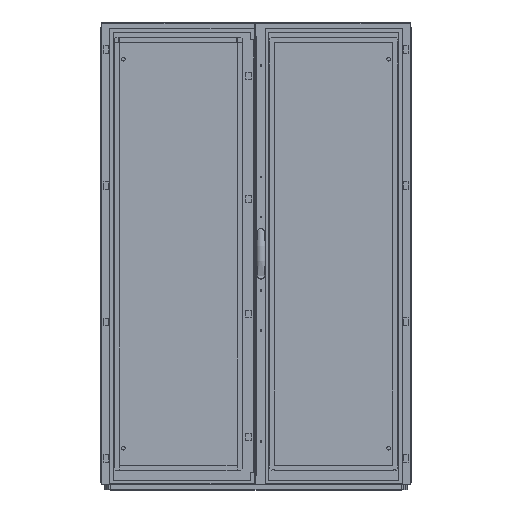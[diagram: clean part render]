
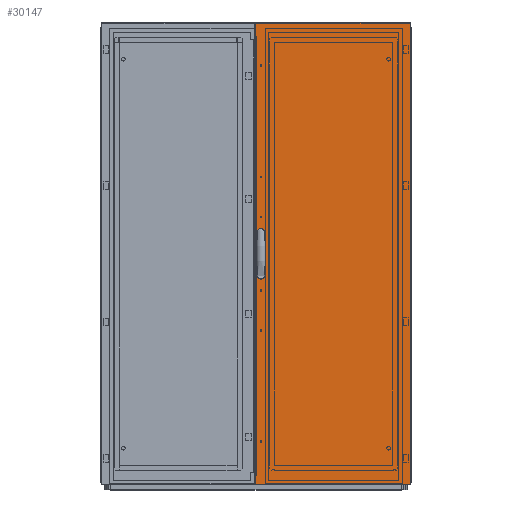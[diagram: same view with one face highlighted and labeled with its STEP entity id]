
A CAD part, top view. The second image highlights one B-rep face of the part: STEP entity #30147.
In plain terms, the highlighted planar face has unit normal (0, 0, 1) as drawn and (0, 0, -1) by its records, which use the part's own axes.
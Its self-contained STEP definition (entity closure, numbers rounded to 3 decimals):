
#359=CIRCLE('',#33836,2.6);
#360=CIRCLE('',#33837,2.6);
#3166=ORIENTED_EDGE('',*,*,#10638,.T.);
#3167=ORIENTED_EDGE('',*,*,#10639,.T.);
#3168=ORIENTED_EDGE('',*,*,#10640,.T.);
#3169=ORIENTED_EDGE('',*,*,#10641,.T.);
#3170=ORIENTED_EDGE('',*,*,#10642,.T.);
#3171=ORIENTED_EDGE('',*,*,#10643,.T.);
#3172=ORIENTED_EDGE('',*,*,#10644,.T.);
#3173=ORIENTED_EDGE('',*,*,#10645,.T.);
#3174=ORIENTED_EDGE('',*,*,#10646,.T.);
#3175=ORIENTED_EDGE('',*,*,#10647,.T.);
#3176=ORIENTED_EDGE('',*,*,#10648,.T.);
#3177=ORIENTED_EDGE('',*,*,#10649,.T.);
#3178=ORIENTED_EDGE('',*,*,#10650,.T.);
#3179=ORIENTED_EDGE('',*,*,#10651,.T.);
#3180=ORIENTED_EDGE('',*,*,#10652,.T.);
#3181=ORIENTED_EDGE('',*,*,#10653,.T.);
#3182=ORIENTED_EDGE('',*,*,#10654,.T.);
#3183=ORIENTED_EDGE('',*,*,#10655,.F.);
#3184=ORIENTED_EDGE('',*,*,#10656,.F.);
#3185=ORIENTED_EDGE('',*,*,#10657,.T.);
#3186=ORIENTED_EDGE('',*,*,#10658,.T.);
#3187=ORIENTED_EDGE('',*,*,#10659,.T.);
#10638=EDGE_CURVE('',#14574,#14575,#17717,.T.);
#10639=EDGE_CURVE('',#14575,#14576,#17718,.T.);
#10640=EDGE_CURVE('',#14576,#14577,#17719,.T.);
#10641=EDGE_CURVE('',#14577,#14578,#17720,.T.);
#10642=EDGE_CURVE('',#14578,#14579,#17721,.T.);
#10643=EDGE_CURVE('',#14579,#14580,#17722,.T.);
#10644=EDGE_CURVE('',#14580,#14581,#17723,.T.);
#10645=EDGE_CURVE('',#14581,#14582,#17724,.T.);
#10646=EDGE_CURVE('',#14582,#14583,#17725,.T.);
#10647=EDGE_CURVE('',#14583,#14584,#17726,.T.);
#10648=EDGE_CURVE('',#14584,#14585,#17727,.T.);
#10649=EDGE_CURVE('',#14585,#14586,#17728,.T.);
#10650=EDGE_CURVE('',#14586,#14587,#17729,.T.);
#10651=EDGE_CURVE('',#14587,#14588,#17730,.T.);
#10652=EDGE_CURVE('',#14588,#14589,#17731,.T.);
#10653=EDGE_CURVE('',#14589,#14574,#17732,.T.);
#10654=EDGE_CURVE('',#14590,#14591,#17733,.T.);
#10655=EDGE_CURVE('',#14592,#14591,#17734,.T.);
#10656=EDGE_CURVE('',#14593,#14592,#17735,.T.);
#10657=EDGE_CURVE('',#14593,#14590,#17736,.T.);
#10658=EDGE_CURVE('',#14594,#14594,#359,.T.);
#10659=EDGE_CURVE('',#14595,#14595,#360,.T.);
#14574=VERTEX_POINT('',#45845);
#14575=VERTEX_POINT('',#45846);
#14576=VERTEX_POINT('',#45848);
#14577=VERTEX_POINT('',#45850);
#14578=VERTEX_POINT('',#45852);
#14579=VERTEX_POINT('',#45854);
#14580=VERTEX_POINT('',#45856);
#14581=VERTEX_POINT('',#45858);
#14582=VERTEX_POINT('',#45860);
#14583=VERTEX_POINT('',#45862);
#14584=VERTEX_POINT('',#45864);
#14585=VERTEX_POINT('',#45866);
#14586=VERTEX_POINT('',#45868);
#14587=VERTEX_POINT('',#45870);
#14588=VERTEX_POINT('',#45872);
#14589=VERTEX_POINT('',#45874);
#14590=VERTEX_POINT('',#45877);
#14591=VERTEX_POINT('',#45878);
#14592=VERTEX_POINT('',#45880);
#14593=VERTEX_POINT('',#45882);
#14594=VERTEX_POINT('',#45885);
#14595=VERTEX_POINT('',#45887);
#17717=LINE('',#45844,#21604);
#17718=LINE('',#45847,#21605);
#17719=LINE('',#45849,#21606);
#17720=LINE('',#45851,#21607);
#17721=LINE('',#45853,#21608);
#17722=LINE('',#45855,#21609);
#17723=LINE('',#45857,#21610);
#17724=LINE('',#45859,#21611);
#17725=LINE('',#45861,#21612);
#17726=LINE('',#45863,#21613);
#17727=LINE('',#45865,#21614);
#17728=LINE('',#45867,#21615);
#17729=LINE('',#45869,#21616);
#17730=LINE('',#45871,#21617);
#17731=LINE('',#45873,#21618);
#17732=LINE('',#45875,#21619);
#17733=LINE('',#45876,#21620);
#17734=LINE('',#45879,#21621);
#17735=LINE('',#45881,#21622);
#17736=LINE('',#45883,#21623);
#21604=VECTOR('',#37511,1000.);
#21605=VECTOR('',#37512,1000.);
#21606=VECTOR('',#37513,1000.);
#21607=VECTOR('',#37514,1000.);
#21608=VECTOR('',#37515,1000.);
#21609=VECTOR('',#37516,1000.);
#21610=VECTOR('',#37517,1000.);
#21611=VECTOR('',#37518,1000.);
#21612=VECTOR('',#37519,1000.);
#21613=VECTOR('',#37520,1000.);
#21614=VECTOR('',#37521,1000.);
#21615=VECTOR('',#37522,1000.);
#21616=VECTOR('',#37523,1000.);
#21617=VECTOR('',#37524,1000.);
#21618=VECTOR('',#37525,1000.);
#21619=VECTOR('',#37526,1000.);
#21620=VECTOR('',#37527,1000.);
#21621=VECTOR('',#37528,1000.);
#21622=VECTOR('',#37529,1000.);
#21623=VECTOR('',#37530,1000.);
#25019=EDGE_LOOP('',(#3166,#3167,#3168,#3169,#3170,#3171,#3172,#3173,#3174,
#3175,#3176,#3177,#3178,#3179,#3180,#3181));
#25020=EDGE_LOOP('',(#3182,#3183,#3184,#3185));
#25021=EDGE_LOOP('',(#3186));
#25022=EDGE_LOOP('',(#3187));
#26925=FACE_BOUND('',#25019,.T.);
#26926=FACE_BOUND('',#25020,.T.);
#26927=FACE_BOUND('',#25021,.T.);
#26928=FACE_BOUND('',#25022,.T.);
#28665=PLANE('',#33835);
#30147=ADVANCED_FACE('',(#26925,#26926,#26927,#26928),#28665,.F.);
#33835=AXIS2_PLACEMENT_3D('',#45843,#37509,#37510);
#33836=AXIS2_PLACEMENT_3D('',#45884,#37531,#37532);
#33837=AXIS2_PLACEMENT_3D('',#45886,#37533,#37534);
#37509=DIRECTION('',(0.,0.,1.));
#37510=DIRECTION('',(1.,0.,0.));
#37511=DIRECTION('',(0.,-1.,0.));
#37512=DIRECTION('',(0.342,-0.94,0.));
#37513=DIRECTION('',(1.,0.,0.));
#37514=DIRECTION('',(0.,1.,0.));
#37515=DIRECTION('',(1.,0.,0.));
#37516=DIRECTION('',(0.,-1.,0.));
#37517=DIRECTION('',(1.,0.,0.));
#37518=DIRECTION('',(0.342,0.94,0.));
#37519=DIRECTION('',(0.,1.,0.));
#37520=DIRECTION('',(-0.342,0.94,0.));
#37521=DIRECTION('',(-1.,0.,0.));
#37522=DIRECTION('',(0.,-1.,0.));
#37523=DIRECTION('',(-1.,0.,0.));
#37524=DIRECTION('',(0.,1.,0.));
#37525=DIRECTION('',(-1.,0.,0.));
#37526=DIRECTION('',(-0.342,-0.94,0.));
#37527=DIRECTION('',(-1.,0.,0.));
#37528=DIRECTION('',(0.,-1.,0.));
#37529=DIRECTION('',(-1.,0.,0.));
#37530=DIRECTION('',(0.,-1.,0.));
#37531=DIRECTION('',(0.,0.,1.));
#37532=DIRECTION('',(1.,0.,0.));
#37533=DIRECTION('',(0.,0.,1.));
#37534=DIRECTION('',(1.,0.,0.));
#45843=CARTESIAN_POINT('',(299.,1782.,-16.8));
#45844=CARTESIAN_POINT('',(265.45,956.256,-16.8));
#45845=CARTESIAN_POINT('',(265.45,956.256,-16.8));
#45846=CARTESIAN_POINT('',(265.45,825.744,-16.8));
#45847=CARTESIAN_POINT('',(265.45,825.744,-16.8));
#45848=CARTESIAN_POINT('',(267.45,820.25,-16.8));
#45849=CARTESIAN_POINT('',(267.45,820.25,-16.8));
#45850=CARTESIAN_POINT('',(272.7,820.25,-16.8));
#45851=CARTESIAN_POINT('',(272.7,820.25,-16.8));
#45852=CARTESIAN_POINT('',(272.7,828.,-16.8));
#45853=CARTESIAN_POINT('',(272.7,828.,-16.8));
#45854=CARTESIAN_POINT('',(283.7,828.,-16.8));
#45855=CARTESIAN_POINT('',(283.7,828.,-16.8));
#45856=CARTESIAN_POINT('',(283.7,820.25,-16.8));
#45857=CARTESIAN_POINT('',(283.7,820.25,-16.8));
#45858=CARTESIAN_POINT('',(288.95,820.25,-16.8));
#45859=CARTESIAN_POINT('',(288.95,820.25,-16.8));
#45860=CARTESIAN_POINT('',(290.95,825.744,-16.8));
#45861=CARTESIAN_POINT('',(290.95,825.744,-16.8));
#45862=CARTESIAN_POINT('',(290.95,956.256,-16.8));
#45863=CARTESIAN_POINT('',(290.95,956.256,-16.8));
#45864=CARTESIAN_POINT('',(288.95,961.75,-16.8));
#45865=CARTESIAN_POINT('',(288.95,961.75,-16.8));
#45866=CARTESIAN_POINT('',(283.7,961.75,-16.8));
#45867=CARTESIAN_POINT('',(283.7,961.75,-16.8));
#45868=CARTESIAN_POINT('',(283.7,954.,-16.8));
#45869=CARTESIAN_POINT('',(283.7,954.,-16.8));
#45870=CARTESIAN_POINT('',(272.7,954.,-16.8));
#45871=CARTESIAN_POINT('',(272.7,954.,-16.8));
#45872=CARTESIAN_POINT('',(272.7,961.75,-16.8));
#45873=CARTESIAN_POINT('',(272.7,961.75,-16.8));
#45874=CARTESIAN_POINT('',(267.45,961.75,-16.8));
#45875=CARTESIAN_POINT('',(267.45,961.75,-16.8));
#45876=CARTESIAN_POINT('',(299.,0.,-16.8));
#45877=CARTESIAN_POINT('',(299.,0.,-16.8));
#45878=CARTESIAN_POINT('',(-299.,0.,-16.8));
#45879=CARTESIAN_POINT('',(-299.,1782.,-16.8));
#45880=CARTESIAN_POINT('',(-299.,1782.,-16.8));
#45881=CARTESIAN_POINT('',(299.,1782.,-16.8));
#45882=CARTESIAN_POINT('',(299.,1782.,-16.8));
#45883=CARTESIAN_POINT('',(299.,1782.,-16.8));
#45884=CARTESIAN_POINT('',(278.2,961.,-16.8));
#45885=CARTESIAN_POINT('',(280.8,961.,-16.8));
#45886=CARTESIAN_POINT('',(278.2,821.,-16.8));
#45887=CARTESIAN_POINT('',(280.8,821.,-16.8));
